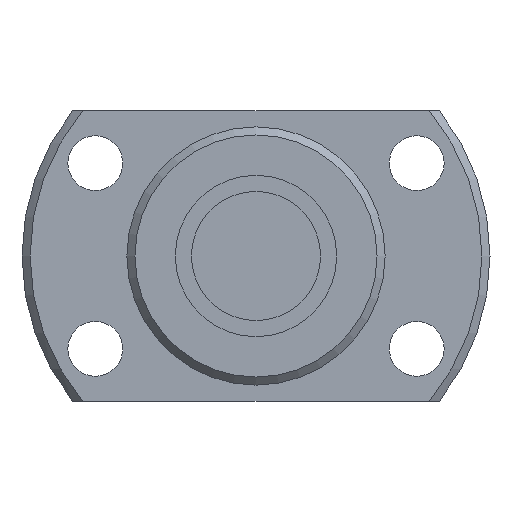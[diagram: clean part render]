
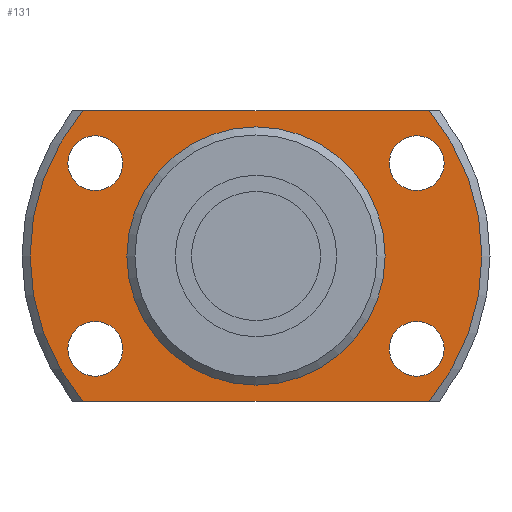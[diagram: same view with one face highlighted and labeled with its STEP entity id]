
A CAD part, left-side view. The second image highlights one B-rep face of the part: STEP entity #131.
In plain terms, the highlighted planar face has unit normal (-1, 0, 0).
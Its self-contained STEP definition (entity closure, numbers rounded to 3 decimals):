
#131 = ADVANCED_FACE( '', ( #249, #250, #251, #252, #253, #254 ), #255, .F. );
#249 = FACE_OUTER_BOUND( '', #361, .T. );
#250 = FACE_BOUND( '', #362, .T. );
#251 = FACE_BOUND( '', #363, .T. );
#252 = FACE_BOUND( '', #364, .T. );
#253 = FACE_BOUND( '', #365, .T. );
#254 = FACE_BOUND( '', #366, .T. );
#255 = PLANE( '', #367 );
#361 = EDGE_LOOP( '', ( #526, #527, #528, #529 ) );
#362 = EDGE_LOOP( '', ( #530 ) );
#363 = EDGE_LOOP( '', ( #531 ) );
#364 = EDGE_LOOP( '', ( #532 ) );
#365 = EDGE_LOOP( '', ( #533 ) );
#366 = EDGE_LOOP( '', ( #534 ) );
#367 = AXIS2_PLACEMENT_3D( '', #535, #536, #537 );
#526 = ORIENTED_EDGE( '', *, *, #586, .F. );
#527 = ORIENTED_EDGE( '', *, *, #637, .T. );
#528 = ORIENTED_EDGE( '', *, *, #576, .F. );
#529 = ORIENTED_EDGE( '', *, *, #592, .T. );
#530 = ORIENTED_EDGE( '', *, *, #634, .T. );
#531 = ORIENTED_EDGE( '', *, *, #619, .T. );
#532 = ORIENTED_EDGE( '', *, *, #610, .T. );
#533 = ORIENTED_EDGE( '', *, *, #616, .T. );
#534 = ORIENTED_EDGE( '', *, *, #600, .T. );
#535 = CARTESIAN_POINT( '', ( 12., 7.85, 0. ) );
#536 = DIRECTION( '', ( 1., 0., 0. ) );
#537 = DIRECTION( '', ( 0., 0., -1. ) );
#576 = EDGE_CURVE( '', #644, #645, #646, .T. );
#586 = EDGE_CURVE( '', #662, #663, #664, .T. );
#592 = EDGE_CURVE( '', #644, #663, #672, .T. );
#600 = EDGE_CURVE( '', #683, #683, #684, .T. );
#610 = EDGE_CURVE( '', #698, #698, #699, .T. );
#616 = EDGE_CURVE( '', #708, #708, #709, .T. );
#619 = EDGE_CURVE( '', #713, #713, #714, .T. );
#634 = EDGE_CURVE( '', #735, #735, #736, .T. );
#637 = EDGE_CURVE( '', #662, #645, #740, .T. );
#644 = VERTEX_POINT( '', #747 );
#645 = VERTEX_POINT( '', #748 );
#646 = CIRCLE( '', #749, 14. );
#662 = VERTEX_POINT( '', #777 );
#663 = VERTEX_POINT( '', #778 );
#664 = CIRCLE( '', #779, 14. );
#672 = LINE( '', #794, #795 );
#683 = VERTEX_POINT( '', #812 );
#684 = CIRCLE( '', #813, 7.85 );
#698 = VERTEX_POINT( '', #828 );
#699 = CIRCLE( '', #829, 1.7 );
#708 = VERTEX_POINT( '', #838 );
#709 = CIRCLE( '', #839, 1.7 );
#713 = VERTEX_POINT( '', #843 );
#714 = CIRCLE( '', #844, 1.7 );
#735 = VERTEX_POINT( '', #868 );
#736 = CIRCLE( '', #869, 1.7 );
#740 = LINE( '', #873, #874 );
#747 = CARTESIAN_POINT( '', ( 12., -10.724, 9. ) );
#748 = CARTESIAN_POINT( '', ( 12., -10.724, -9. ) );
#749 = AXIS2_PLACEMENT_3D( '', #881, #882, #883 );
#777 = CARTESIAN_POINT( '', ( 12., 10.724, -9. ) );
#778 = CARTESIAN_POINT( '', ( 12., 10.724, 9. ) );
#779 = AXIS2_PLACEMENT_3D( '', #893, #894, #895 );
#794 = CARTESIAN_POINT( '', ( 12., 7.85, 9. ) );
#795 = VECTOR( '', #900, 1000. );
#812 = CARTESIAN_POINT( '', ( 12., 0., -7.85 ) );
#813 = AXIS2_PLACEMENT_3D( '', #907, #908, #909 );
#828 = CARTESIAN_POINT( '', ( 12., 9.959, -7.45 ) );
#829 = AXIS2_PLACEMENT_3D( '', #923, #924, #925 );
#838 = CARTESIAN_POINT( '', ( 12., 9.959, 4.05 ) );
#839 = AXIS2_PLACEMENT_3D( '', #935, #936, #937 );
#843 = CARTESIAN_POINT( '', ( 12., -9.959, -7.45 ) );
#844 = AXIS2_PLACEMENT_3D( '', #941, #942, #943 );
#868 = CARTESIAN_POINT( '', ( 12., -9.959, 4.05 ) );
#869 = AXIS2_PLACEMENT_3D( '', #962, #963, #964 );
#873 = CARTESIAN_POINT( '', ( 12., 7.85, -9. ) );
#874 = VECTOR( '', #968, 1000. );
#881 = CARTESIAN_POINT( '', ( 12., 0., 0. ) );
#882 = DIRECTION( '', ( 1., 0., 0. ) );
#883 = DIRECTION( '', ( 0., 0., -1. ) );
#893 = CARTESIAN_POINT( '', ( 12., 0., 0. ) );
#894 = DIRECTION( '', ( 1., 0., 0. ) );
#895 = DIRECTION( '', ( 0., 0., -1. ) );
#900 = DIRECTION( '', ( 0., 1., 0. ) );
#907 = CARTESIAN_POINT( '', ( 12., 0., 0. ) );
#908 = DIRECTION( '', ( 1., 0., 0. ) );
#909 = DIRECTION( '', ( 0., 0., -1. ) );
#923 = CARTESIAN_POINT( '', ( 12., 9.959, -5.75 ) );
#924 = DIRECTION( '', ( 1., 0., 0. ) );
#925 = DIRECTION( '', ( 0., 0., -1. ) );
#935 = CARTESIAN_POINT( '', ( 12., 9.959, 5.75 ) );
#936 = DIRECTION( '', ( 1., 0., 0. ) );
#937 = DIRECTION( '', ( 0., 0., -1. ) );
#941 = CARTESIAN_POINT( '', ( 12., -9.959, -5.75 ) );
#942 = DIRECTION( '', ( 1., 0., 0. ) );
#943 = DIRECTION( '', ( 0., 0., -1. ) );
#962 = CARTESIAN_POINT( '', ( 12., -9.959, 5.75 ) );
#963 = DIRECTION( '', ( 1., 0., 0. ) );
#964 = DIRECTION( '', ( 0., 0., -1. ) );
#968 = DIRECTION( '', ( 0., -1., 0. ) );
